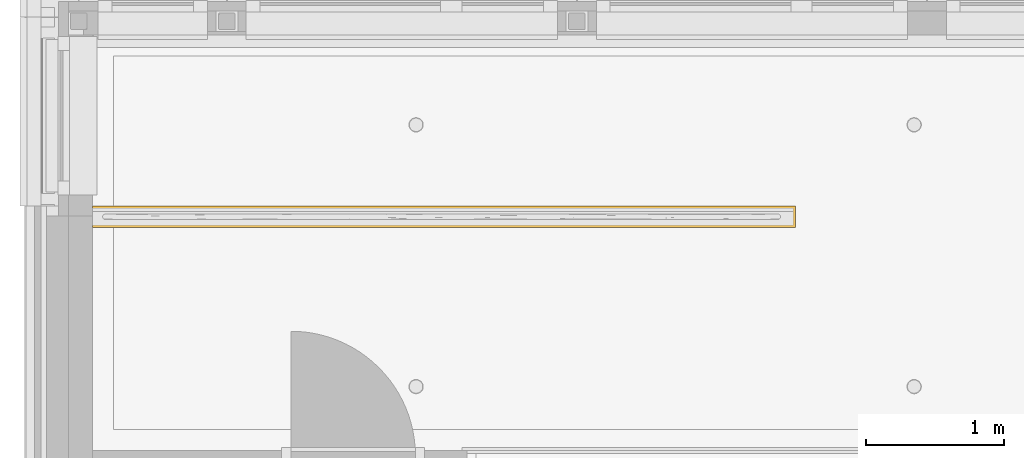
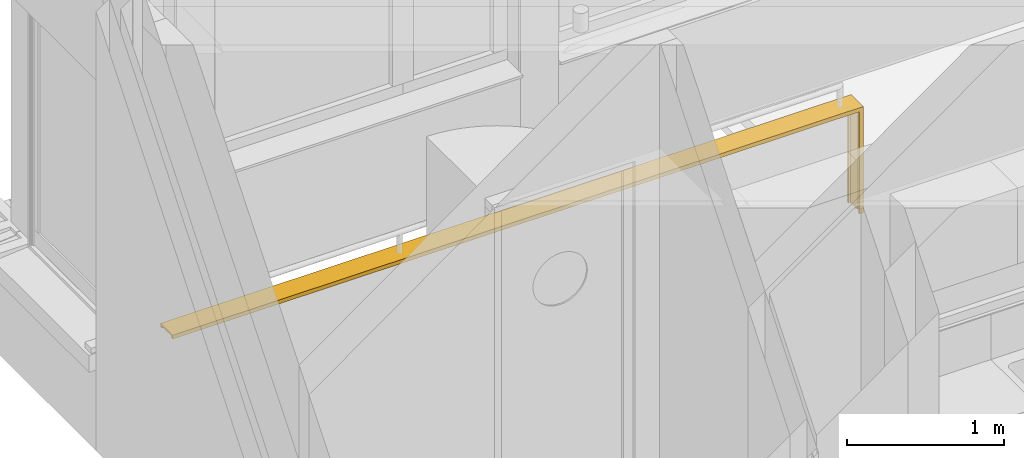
# One storey, part 75 of 128: 1 railing.
"""IFC2X3 building model written with IfcOpenShell, lengths in millimetres."""

from ifc_helpers import new_model, entity, si_unit, converted_unit, derived_unit, direction, frame, origin, place, context, subcontext, project, spatial, faceted_brep, source, transform, mapped, material, type_object, type_shapes, element, save


model = new_model("IFC2X3")

# Units and contexts
model_context = context("Model", 3, precision=0.01, world=origin(), true_north=direction((6.123031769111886e-17, 1.0)))
body_context = subcontext(model_context, "Body", "Model", "MODEL_VIEW")
ifc_project = project(units=[si_unit("LENGTHUNIT", "METRE", prefix="MILLI"), si_unit("AREAUNIT", "SQUARE_METRE"), si_unit("VOLUMEUNIT", "CUBIC_METRE"), converted_unit("PLANEANGLEUNIT", "DEGREE", entity("IfcRatioMeasure", 0.017453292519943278), si_unit("PLANEANGLEUNIT", "RADIAN"), dimensions=[0, 0, 0, 0, 0, 0, 0]), si_unit("MASSUNIT", "GRAM", prefix="KILO"), derived_unit("MASSDENSITYUNIT", [(si_unit("MASSUNIT", "GRAM", prefix="KILO"), 1), (si_unit("LENGTHUNIT", "METRE"), -3)]), derived_unit("IONCONCENTRATIONUNIT", [(si_unit("MASSUNIT", "GRAM", prefix="KILO"), 1), (si_unit("LENGTHUNIT", "METRE"), -3)]), derived_unit("MOMENTOFINERTIAUNIT", [(si_unit("LENGTHUNIT", "METRE"), 4)]), si_unit("TIMEUNIT", "SECOND"), si_unit("FREQUENCYUNIT", "HERTZ"), si_unit("THERMODYNAMICTEMPERATUREUNIT", "DEGREE_CELSIUS"), derived_unit("THERMALTRANSMITTANCEUNIT", [(si_unit("MASSUNIT", "GRAM", prefix="KILO"), 1), (si_unit("THERMODYNAMICTEMPERATUREUNIT", "KELVIN"), -1), (si_unit("TIMEUNIT", "SECOND"), -3)]), derived_unit("THERMALCONDUCTANCEUNIT", [(si_unit("MASSUNIT", "GRAM", prefix="KILO"), 1), (si_unit("THERMODYNAMICTEMPERATUREUNIT", "KELVIN"), -1), (si_unit("TIMEUNIT", "SECOND"), -3), (si_unit("LENGTHUNIT", "METRE"), 1)]), derived_unit("VOLUMETRICFLOWRATEUNIT", [(si_unit("LENGTHUNIT", "METRE"), 3), (si_unit("TIMEUNIT", "SECOND"), -1)]), derived_unit("MASSFLOWRATEUNIT", [(si_unit("MASSUNIT", "GRAM", prefix="KILO"), 1), (si_unit("TIMEUNIT", "SECOND"), -1)]), derived_unit("ROTATIONALFREQUENCYUNIT", [(si_unit("TIMEUNIT", "SECOND"), -1)]), si_unit("ELECTRICCURRENTUNIT", "AMPERE"), si_unit("ELECTRICVOLTAGEUNIT", "VOLT"), si_unit("POWERUNIT", "WATT"), si_unit("FORCEUNIT", "NEWTON", prefix="KILO"), si_unit("ILLUMINANCEUNIT", "LUX"), si_unit("LUMINOUSFLUXUNIT", "LUMEN"), si_unit("LUMINOUSINTENSITYUNIT", "CANDELA"), derived_unit("USERDEFINED", [(si_unit("MASSUNIT", "GRAM", prefix="KILO"), -1), (si_unit("LENGTHUNIT", "METRE"), -2), (si_unit("TIMEUNIT", "SECOND"), 3), (si_unit("LUMINOUSFLUXUNIT", "LUMEN"), 1)]), derived_unit("USERDEFINED", [(si_unit("MASSUNIT", "GRAM", prefix="KILO"), 1), (si_unit("TIMEUNIT", "SECOND"), -3), (si_unit("LENGTHUNIT", "METRE"), 3), (si_unit("ELECTRICCURRENTUNIT", "AMPERE"), -2)]), derived_unit("SOUNDPOWERUNIT", [(si_unit("MASSUNIT", "GRAM", prefix="KILO"), 1), (si_unit("TIMEUNIT", "SECOND"), -3), (si_unit("LENGTHUNIT", "METRE"), 2)]), derived_unit("SOUNDPRESSUREUNIT", [(si_unit("MASSUNIT", "GRAM", prefix="KILO"), 1), (si_unit("LENGTHUNIT", "METRE"), -1), (si_unit("TIMEUNIT", "SECOND"), -2)]), derived_unit("LINEARVELOCITYUNIT", [(si_unit("LENGTHUNIT", "METRE"), 1), (si_unit("TIMEUNIT", "SECOND"), -1)]), si_unit("PRESSUREUNIT", "PASCAL"), derived_unit("USERDEFINED", [(si_unit("MASSUNIT", "GRAM", prefix="KILO"), 1), (si_unit("LENGTHUNIT", "METRE"), -2), (si_unit("TIMEUNIT", "SECOND"), -2)]), derived_unit("LINEARFORCEUNIT", [(si_unit("MASSUNIT", "GRAM", prefix="KILO"), 1), (si_unit("TIMEUNIT", "SECOND"), -2)]), derived_unit("PLANARFORCEUNIT", [(si_unit("MASSUNIT", "GRAM", prefix="KILO"), 1), (si_unit("LENGTHUNIT", "METRE"), -1), (si_unit("TIMEUNIT", "SECOND"), -2)]), derived_unit("SPECIFICHEATCAPACITYUNIT", [(si_unit("THERMODYNAMICTEMPERATUREUNIT", "KELVIN"), -1), (si_unit("LENGTHUNIT", "METRE"), 2), (si_unit("TIMEUNIT", "SECOND"), -2)]), derived_unit("HEATINGVALUEUNIT", [(si_unit("LENGTHUNIT", "METRE"), 2), (si_unit("TIMEUNIT", "SECOND"), -2)]), derived_unit("VAPORPERMEABILITYUNIT", [(si_unit("LENGTHUNIT", "METRE"), -1), (si_unit("TIMEUNIT", "SECOND"), 1)]), derived_unit("DYNAMICVISCOSITYUNIT", [(si_unit("MASSUNIT", "GRAM", prefix="KILO"), 1), (si_unit("TIMEUNIT", "SECOND"), -1), (si_unit("LENGTHUNIT", "METRE"), -1)]), derived_unit("THERMALEXPANSIONCOEFFICIENTUNIT", [(si_unit("THERMODYNAMICTEMPERATUREUNIT", "KELVIN"), -1)]), derived_unit("MODULUSOFELASTICITYUNIT", [(si_unit("MASSUNIT", "GRAM", prefix="KILO"), 1), (si_unit("LENGTHUNIT", "METRE"), -1), (si_unit("TIMEUNIT", "SECOND"), -2)]), derived_unit("ISOTHERMALMOISTURECAPACITYUNIT", [(si_unit("LENGTHUNIT", "METRE"), 3), (si_unit("MASSUNIT", "GRAM", prefix="KILO"), -1)]), derived_unit("MOISTUREDIFFUSIVITYUNIT", [(si_unit("TIMEUNIT", "SECOND"), -1), (si_unit("LENGTHUNIT", "METRE"), 2)])], contexts=[model_context])

# Site, building, storey
site_placement = place(None, frame((0.0, 300.0, 0.0)))
site = spatial("IfcSite", under=ifc_project, at=site_placement, Name="<Kadastrale nummers>", CompositionType="ELEMENT")
building_placement = place(site_placement, origin())
building = spatial("IfcBuilding", under=site, at=building_placement, CompositionType="ELEMENT")
storey_placement = place(building_placement, frame((0.0, 0.0, 3560.0000331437)))
storey = spatial("IfcBuildingStorey", under=building, at=storey_placement, Name="01 eerste verdieping", CompositionType="ELEMENT", Elevation=3560.0000331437)

# Railing
ifc_material = material(Name="ISR_Kunststof_wit")
railing_type = type_object("IfcRailingType", Name="Railings 6:Railings 6", PredefinedType="NOTDEFINED", material=ifc_material)
shared_shape = source(origin(), body_context, "Body", "Brep", [
    faceted_brep([(5050.0, 15.0, 0.0), (5065.0, 15.0, 0.0), (5065.0, 140.0, 0.0), (5050.0, 140.0, 0.0), (5050.0, 155.0, 0.0), (5080.0, 155.0, 0.0), (5080.0, 0.0, 0.0), (5050.0, 0.0, 0.0), (5050.0, 15.0, 794.9999649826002), (0.0, 15.0, 794.9999649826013), (0.0, 15.0, 809.9999649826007), (5065.0, 15.0, 809.9999649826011), (5065.0, 140.0, 809.9999649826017), (0.0, 140.0, 809.9999649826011), (0.0, 140.0, 794.9999649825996), (5050.0, 140.0, 794.9999649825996), (5050.0, 155.0, 794.9999649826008), (0.0, 155.0, 794.9999649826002), (0.0, 155.0, 824.999964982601), (5080.0, 155.0, 824.9999649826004), (5080.0, 0.0, 824.9999649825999), (0.0, 0.0, 824.9999649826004), (0.0, 0.0, 794.9999649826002), (5050.0, 0.0, 794.9999649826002)], [[[0, 1, 2, 3, 4, 5, 6, 7]], [[1, 0, 8, 9, 10, 11]], [[2, 1, 11, 12]], [[3, 2, 12, 13, 14, 15]], [[4, 3, 15, 16]], [[5, 4, 16, 17, 18, 19]], [[6, 5, 19, 20]], [[7, 6, 20, 21, 22, 23]], [[0, 7, 23, 8]], [[9, 22, 21, 18, 17, 14, 13, 10]], [[12, 11, 10, 13]], [[16, 15, 14, 17]], [[20, 19, 18, 21]], [[8, 23, 22, 9]]]),
])
type_shapes(railing_type, [shared_shape])
railing_placement = place(storey_placement, frame((3100.0, 48310.0, 90.00000187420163)))
element("IfcRailing", 1, at=railing_placement, inside=storey, type_object=railing_type, material=ifc_material, Name="Railings 6:Railings 6", ObjectType="Railings 6:Railings 6", PredefinedType="NOTDEFINED", context=body_context, shape_type="MappedRepresentation", body=[
    mapped(shared_shape, transform((0.0, 0.0, 0.0), scale=1.0)),
])

save(model, "model.ifc")
